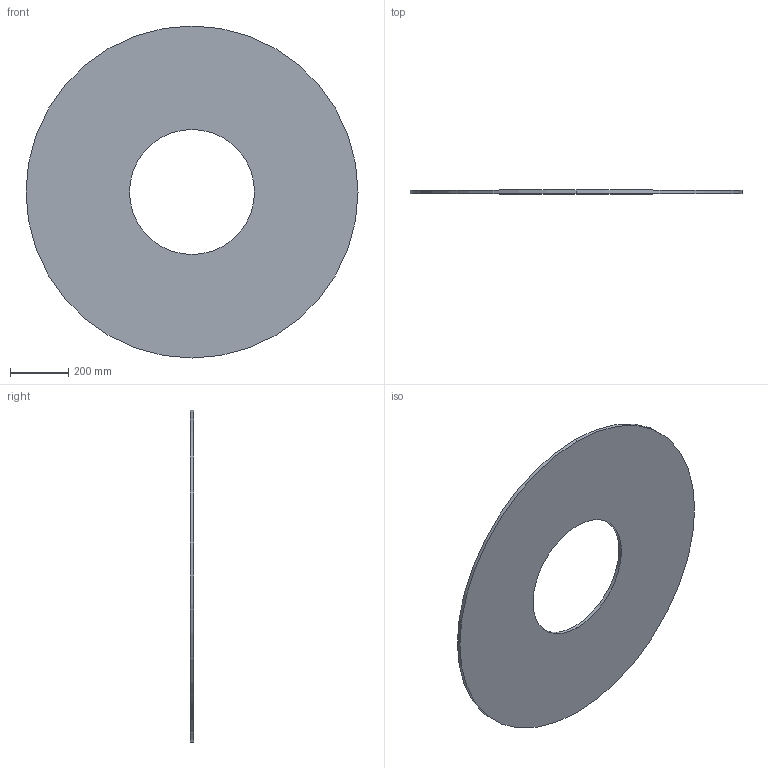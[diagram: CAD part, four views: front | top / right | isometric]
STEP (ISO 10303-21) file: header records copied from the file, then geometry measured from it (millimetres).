
FILE_DESCRIPTION (( 'STEP AP203' ), '1' );
FILE_NAME ('3D_R152_DN350_17305330.STEP', '2024-08-13T08:05:26', ( '' ), ( '' ), 'SwSTEP 2.0', 'SolidWorks 2024', '' );
FILE_SCHEMA (( 'CONFIG_CONTROL_DESIGN' ));
Length unit declared in the file: millimetre
Products named in the file (1): 3D_R152_DN350_17305330
Bounding box: 1142 x 12 x 1142 mm (x, y, z)
Volume: 10548814.7 mm3; surface area: 1817398.8 mm2
Topology: 1 solids, 1 shells, 6 faces, 12 edges, 8 vertices
Faces by surface type: cylinder 4, plane 2
Entity records: 245 total; most frequent: DIRECTION 34, CARTESIAN_POINT 27, ORIENTED_EDGE 24, AXIS2_PLACEMENT_3D 15, EDGE_CURVE 12, EDGE_LOOP 8, CIRCLE 8, VERTEX_POINT 8
